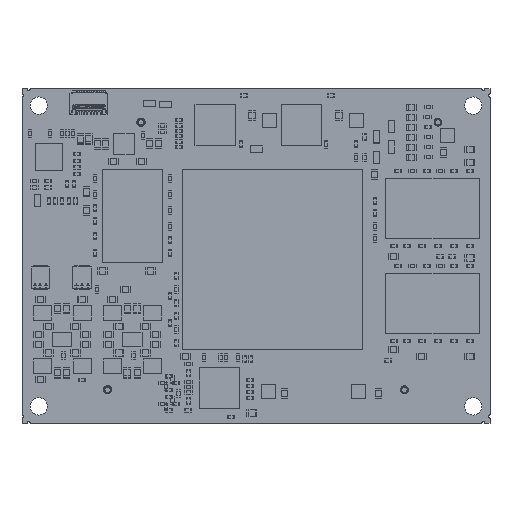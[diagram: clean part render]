
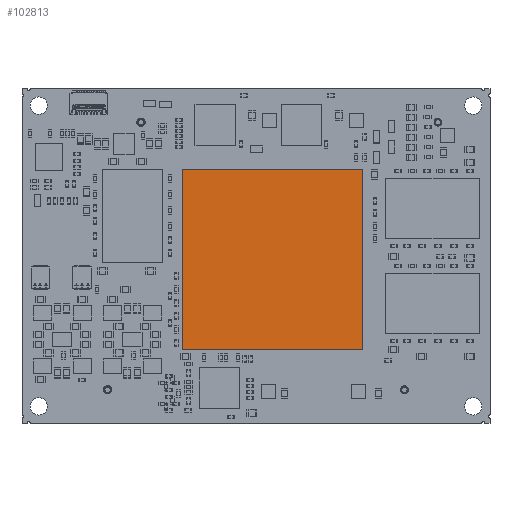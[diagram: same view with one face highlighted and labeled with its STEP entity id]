
A CAD part, top view. The second image highlights one B-rep face of the part: STEP entity #102813.
In plain terms, the highlighted planar face has unit normal (0, 0, 1).
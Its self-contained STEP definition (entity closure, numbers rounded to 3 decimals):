
#102684 = VERTEX_POINT('',#102685);
#102685 = CARTESIAN_POINT('',(24.,38.,
    3.17));
#102691 = EDGE_CURVE('',#102684,#102692,#102694,.T.);
#102692 = VERTEX_POINT('',#102693);
#102693 = CARTESIAN_POINT('',(24.,11.,
    3.17));
#102694 = LINE('',#102695,#102696);
#102695 = CARTESIAN_POINT('',(24.,38.,
    3.17));
#102696 = VECTOR('',#102697,1.);
#102697 = DIRECTION('',(0.,-1.,0.));
#102722 = EDGE_CURVE('',#102692,#102723,#102725,.T.);
#102723 = VERTEX_POINT('',#102724);
#102724 = CARTESIAN_POINT('',(51.,11.,
    3.17));
#102725 = LINE('',#102726,#102727);
#102726 = CARTESIAN_POINT('',(24.,11.,
    3.17));
#102727 = VECTOR('',#102728,1.);
#102728 = DIRECTION('',(1.,0.,0.));
#102753 = EDGE_CURVE('',#102723,#102754,#102756,.T.);
#102754 = VERTEX_POINT('',#102755);
#102755 = CARTESIAN_POINT('',(51.,38.,
    3.17));
#102756 = LINE('',#102757,#102758);
#102757 = CARTESIAN_POINT('',(51.,11.,
    3.17));
#102758 = VECTOR('',#102759,1.);
#102759 = DIRECTION('',(0.,1.,0.));
#102784 = EDGE_CURVE('',#102754,#102684,#102785,.T.);
#102785 = LINE('',#102786,#102787);
#102786 = CARTESIAN_POINT('',(51.,38.,
    3.17));
#102787 = VECTOR('',#102788,1.);
#102788 = DIRECTION('',(-1.,0.,0.));
#102813 = ADVANCED_FACE('',(#102814),#102820,.F.);
#102814 = FACE_BOUND('',#102815,.T.);
#102815 = EDGE_LOOP('',(#102816,#102817,#102818,#102819));
#102816 = ORIENTED_EDGE('',*,*,#102691,.T.);
#102817 = ORIENTED_EDGE('',*,*,#102722,.T.);
#102818 = ORIENTED_EDGE('',*,*,#102753,.T.);
#102819 = ORIENTED_EDGE('',*,*,#102784,.T.);
#102820 = PLANE('',#102821);
#102821 = AXIS2_PLACEMENT_3D('',#102822,#102823,#102824);
#102822 = CARTESIAN_POINT('',(24.,38.,
    3.17));
#102823 = DIRECTION('',(0.,0.,-1.));
#102824 = DIRECTION('',(-1.,0.,0.));
